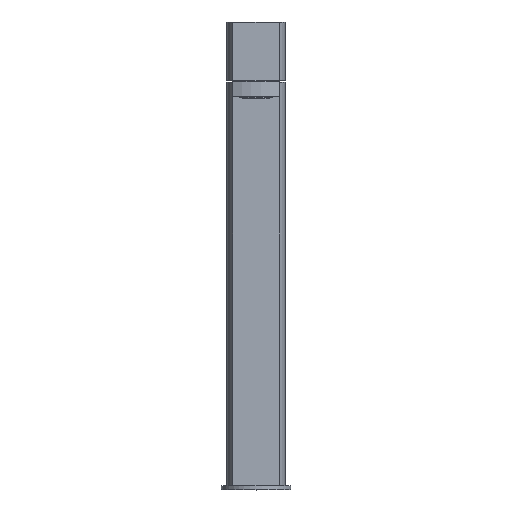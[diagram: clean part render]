
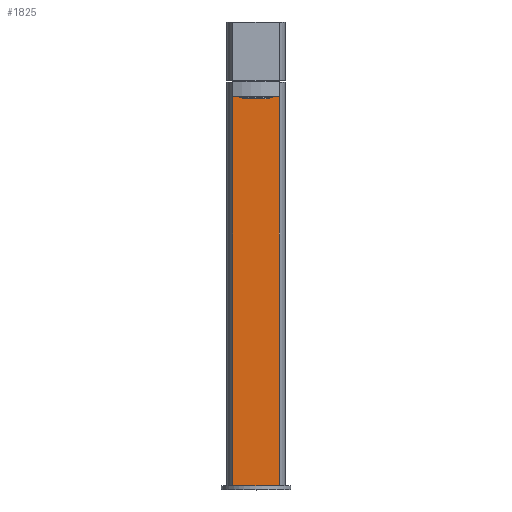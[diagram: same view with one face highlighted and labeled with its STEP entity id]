
A CAD part, top view. The second image highlights one B-rep face of the part: STEP entity #1825.
In plain terms, the highlighted planar face has unit normal (0, 0, 1).
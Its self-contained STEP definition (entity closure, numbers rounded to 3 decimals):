
#81=DIRECTION('',(-1.,0.,0.));
#82=VECTOR('',#81,32.);
#83=CARTESIAN_POINT('',(16.,-230.,12.));
#84=LINE('',#83,#82);
#85=DIRECTION('',(0.,1.,0.));
#86=VECTOR('',#85,267.);
#87=CARTESIAN_POINT('',(-16.,-230.,12.));
#88=LINE('',#87,#86);
#89=DIRECTION('',(-1.,0.,0.));
#90=VECTOR('',#89,32.);
#91=CARTESIAN_POINT('',(16.,37.,12.));
#92=LINE('',#91,#90);
#93=DIRECTION('',(0.,-1.,0.));
#94=VECTOR('',#93,267.);
#95=CARTESIAN_POINT('',(16.,37.,12.));
#96=LINE('',#95,#94);
#1464=CARTESIAN_POINT('',(16.,37.,12.));
#1466=VERTEX_POINT('',#1464);
#1468=CARTESIAN_POINT('',(-16.,37.,12.));
#1470=VERTEX_POINT('',#1468);
#1560=CARTESIAN_POINT('',(16.,-230.,12.));
#1561=CARTESIAN_POINT('',(-16.,-230.,12.));
#1562=VERTEX_POINT('',#1560);
#1563=VERTEX_POINT('',#1561);
#1814=CARTESIAN_POINT('',(16.,47.,12.));
#1815=DIRECTION('',(0.,0.,-1.));
#1816=DIRECTION('',(-1.,0.,0.));
#1817=AXIS2_PLACEMENT_3D('',#1814,#1815,#1816);
#1818=PLANE('',#1817);
#1819=ORIENTED_EDGE('',*,*,#1771,.T.);
#1820=ORIENTED_EDGE('',*,*,#1754,.T.);
#1821=ORIENTED_EDGE('',*,*,#1699,.F.);
#1822=ORIENTED_EDGE('',*,*,#1749,.T.);
#1823=EDGE_LOOP('',(#1819,#1820,#1821,#1822));
#1824=FACE_OUTER_BOUND('',#1823,.F.);
#1825=ADVANCED_FACE('',(#1824),#1818,.F.);
#1699=EDGE_CURVE('',#1466,#1470,#92,.T.);
#1749=EDGE_CURVE('',#1466,#1562,#96,.T.);
#1754=EDGE_CURVE('',#1563,#1470,#88,.T.);
#1771=EDGE_CURVE('',#1562,#1563,#84,.T.);
